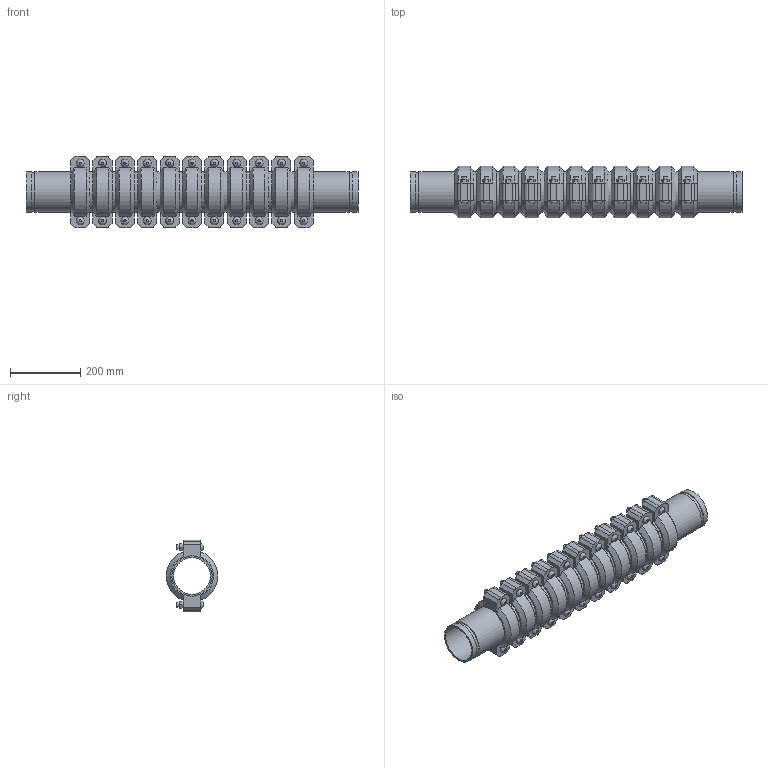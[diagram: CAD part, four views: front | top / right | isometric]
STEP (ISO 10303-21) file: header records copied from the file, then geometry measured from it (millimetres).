
FILE_DESCRIPTION(/* description */ ('VIC SS EXPANSION JOINT 11COUPLINGS NEUTRAL STYLE 155P (OGS) (POTABLE WATER) ','CAx-IF Rec.Pracs.---Representation and Presentation of Product Manufacturing Information (PMI)---4.0---2014-10-13'),/* implementation_level */ '2;1');
FILE_NAME(/* name */ 'C:\Users\kkamble\AppData\Roaming\Autodesk\ApplicationPlugins\Victaulic.Temp\A19\Victaulic_SS_Expansion Joint_Neutral_11 Couplings_Style 155P (OGS)-Potable Water_11 Coup_Neut_4 (100).stp',/* time_stamp */ '2021-07-16T16:28:33+06:00',/* author */ ('kkamble'),/* organization */ ('Victaulic'),/* preprocessor_version */ 'ST-DEVELOPER v17.2',/* originating_system */ 'Autodesk Inventor 2019',/* authorisation */ '');
FILE_SCHEMA (('AP242_MANAGED_MODEL_BASED_3D_ENGINEERING_MIM_LF { 1 0 10303 442 1 1 4 }'));
Length unit declared in the file: inch
Products named in the file (4): 155P-04.0; Nipple-04.0; Nipple-04.0_1; 075-04.0
Assembly tree (23 placements, depth 2):
  155P-04.0
    Nipple-04.0  x2
    Nipple-04.0_1  x10
    075-04.0  x11
Bounding box: 943.61 x 147.32 x 203.96 mm (x, y, z)
Volume: 6754921.9 mm3; surface area: 1556373.5 mm2
Topology: 23 solids, 45 shells, 771 faces, 1823 edges, 1278 vertices
Faces by surface type: plane 468, cylinder 237, cone 44, bspline 22
Full cylindrical faces by diameter (mm): 12.7 x44, 14.605 x22, 103.988 x12, 107.95 x11, 110.084 x24, 114.3 x58
Entity records: 2897 total; most frequent: CARTESIAN_POINT 507, DIRECTION 489, ORIENTED_EDGE 386, AXIS2_PLACEMENT_3D 198, EDGE_CURVE 193, VERTEX_POINT 138, EDGE_LOOP 107, LINE 93
